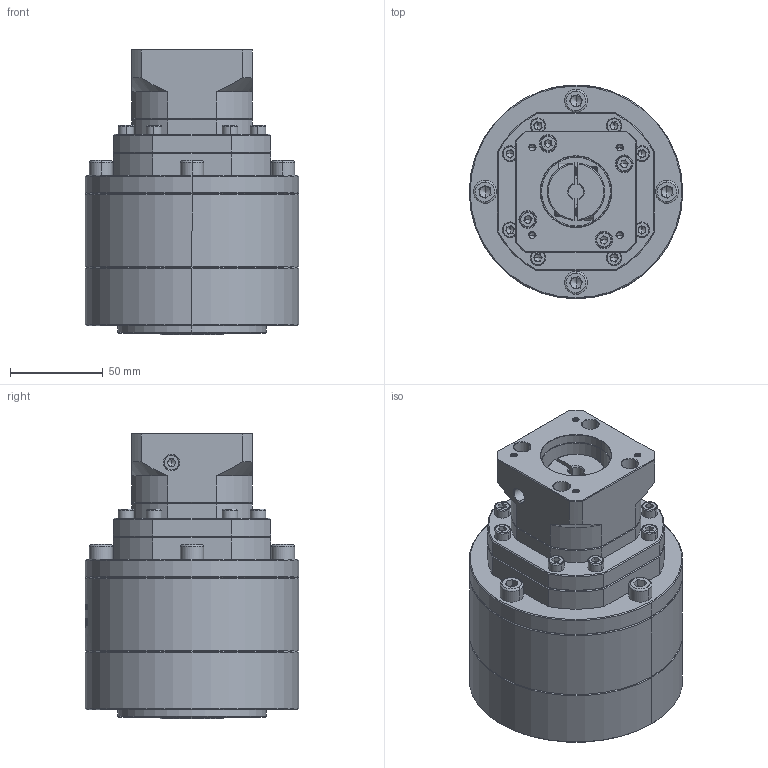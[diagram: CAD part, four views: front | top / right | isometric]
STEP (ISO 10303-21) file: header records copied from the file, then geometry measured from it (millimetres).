
FILE_DESCRIPTION (( 'STEP AP214' ), '1' );
FILE_NAME ('ZE120A-K25-L3-8-38.1-47.14X47.14-M4.step', '2023-03-09T15:44:29', ( '' ), ( 'Microsoft' ), 'SwSTEP 2.0', 'SolidWorks 2016', '' );
FILE_SCHEMA (( 'AUTOMOTIVE_DESIGN' ));
Length unit declared in the file: millimetre
Products named in the file (1): ZE120A-K25-L3-8-38.1-47.14X47.14-M4
Bounding box: 115 x 115 x 154 mm (x, y, z)
Volume: 1111983 mm3; surface area: 108459.7 mm2
Topology: 7 solids, 7 shells, 2102 faces, 5566 edges, 3566 vertices
Faces by surface type: plane 974, cylinder 476, bspline 340, cone 290, torus 22
Entity records: 112949 total; most frequent: CARTESIAN_POINT 42022, ORIENTED_EDGE 11012, DIRECTION 8508, EDGE_CURVE 5506, VERTEX_POINT 3566, VECTOR 2964, LINE 2964, AXIS2_PLACEMENT_3D 2772
